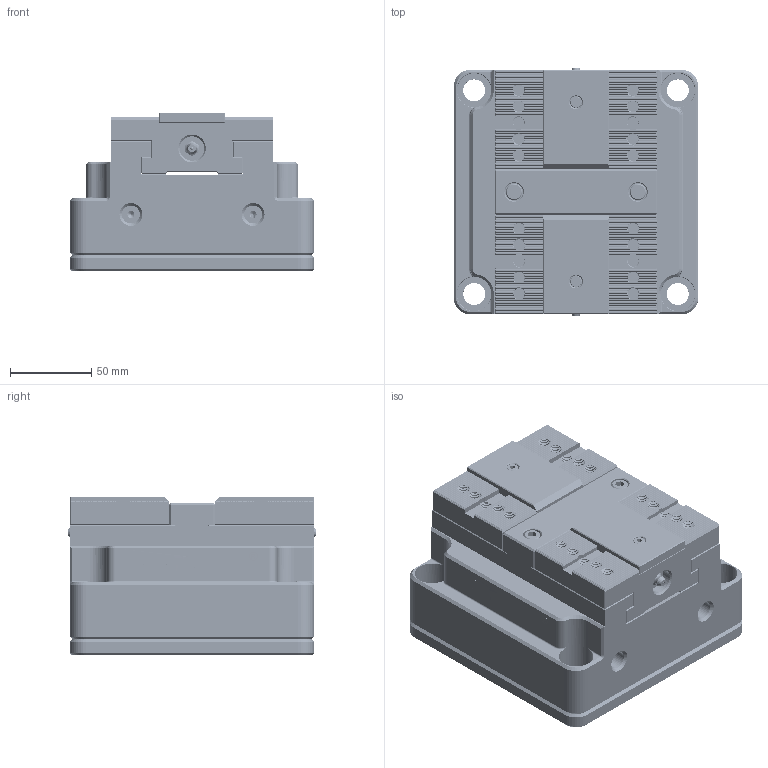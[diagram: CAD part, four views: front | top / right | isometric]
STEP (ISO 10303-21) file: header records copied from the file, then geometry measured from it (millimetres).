
FILE_DESCRIPTION(/* description */ (''),/* implementation_level */ '2;1');
FILE_NAME(/* name */ 'KSP-100.stp',/* time_stamp */ '2024-06-08T14:27:18+08:00',/* author */ (''),/* organization */ (''),/* preprocessor_version */ 'ST-DEVELOPER v20',/* originating_system */ 'SIEMENS PLM Software NX2312.1700',/* authorisation */ '');
FILE_SCHEMA (('AUTOMOTIVE_DESIGN { 1 0 10303 214 3 1 1 1 }'));
Products named in the file (1): KSP-100可发客户_stp_objects
Bounding box: 150 x 152.25 x 97.42 mm (x, y, z)
Volume: 1716008.8 mm3; surface area: 242210.4 mm2
Topology: 14 solids, 14 shells, 2737 faces, 7838 edges, 5143 vertices
Faces by surface type: plane 1296, cylinder 905, cone 301, bspline 128, extrusion 90, sphere 11, torus 6
Full cylindrical faces by diameter (mm): 0.143 x20, 2 x18, 2.6 x2, 3 x2, 3.4 x24, 4.3 x2, 4.5 x2, 5 x1, 5.1 x16, 5.5 x8, 6 x2, 6.5 x2, 7 x2, 7.5 x2, 8 x4, 9 x8, 10 x2, 11 x4, 13.5 x8, 15 x2, 21 x4, 141 x1, 145 x1
Entity records: 197082 total; most frequent: CARTESIAN_POINT 118134, ORIENTED_EDGE 14656, DIRECTION 10858, EDGE_CURVE 7328, VERTEX_POINT 4930, AXIS2_PLACEMENT_3D 3683, VECTOR 3492, LINE 3402
